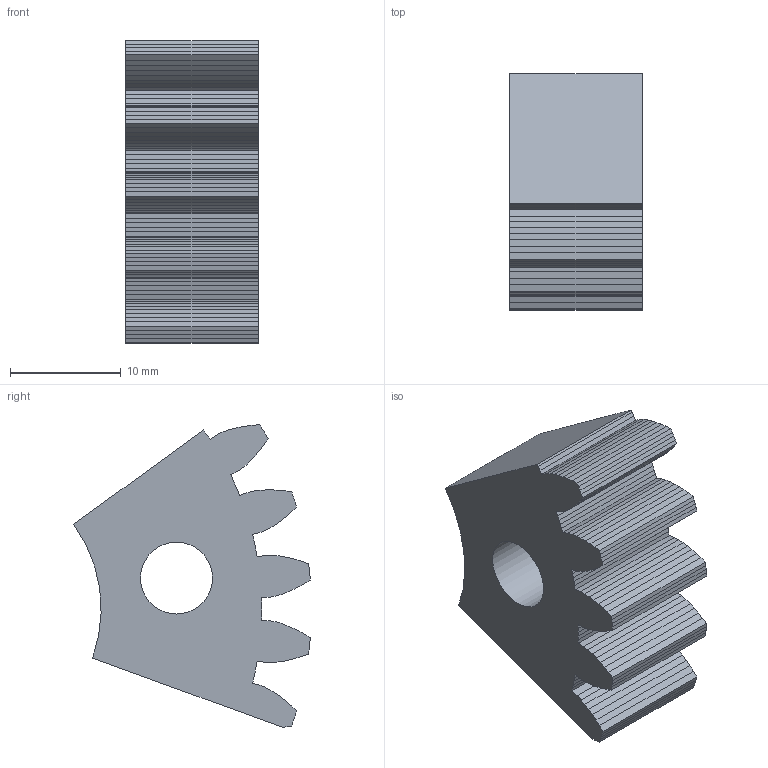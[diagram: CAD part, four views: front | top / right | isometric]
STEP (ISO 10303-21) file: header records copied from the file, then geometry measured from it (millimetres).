
FILE_DESCRIPTION(('Open CASCADE Model'),'2;1');
FILE_NAME('Open CASCADE Shape Model','2026-10-16T02:10:56',('Author'),( 'Open CASCADE'),'Open CASCADE STEP processor 7.9','Open CASCADE 7.9' ,'Unknown');
FILE_SCHEMA(('AUTOMOTIVE_DESIGN { 1 0 10303 214 1 1 1 1 }'));
Length unit declared in the file: millimetre
Products named in the file (1): Open CASCADE STEP translator 7.9 20
Bounding box: 12 x 21.38 x 27.32 mm (x, y, z)
Volume: 3842.5 mm3; surface area: 2154.4 mm2
Topology: 1 solids, 1 shells, 123 faces, 363 edges, 242 vertices
Faces by surface type: plane 121, cylinder 2
Full cylindrical faces by diameter (mm): 6.5 x1
Entity records: 8750 total; most frequent: CARTESIAN_POINT 1495, DIRECTION 1321, LINE 1065, VECTOR 1065, ORIENTED_EDGE 726, PCURVE 726, DEFINITIONAL_REPRESENTATION 726, EDGE_CURVE 363
